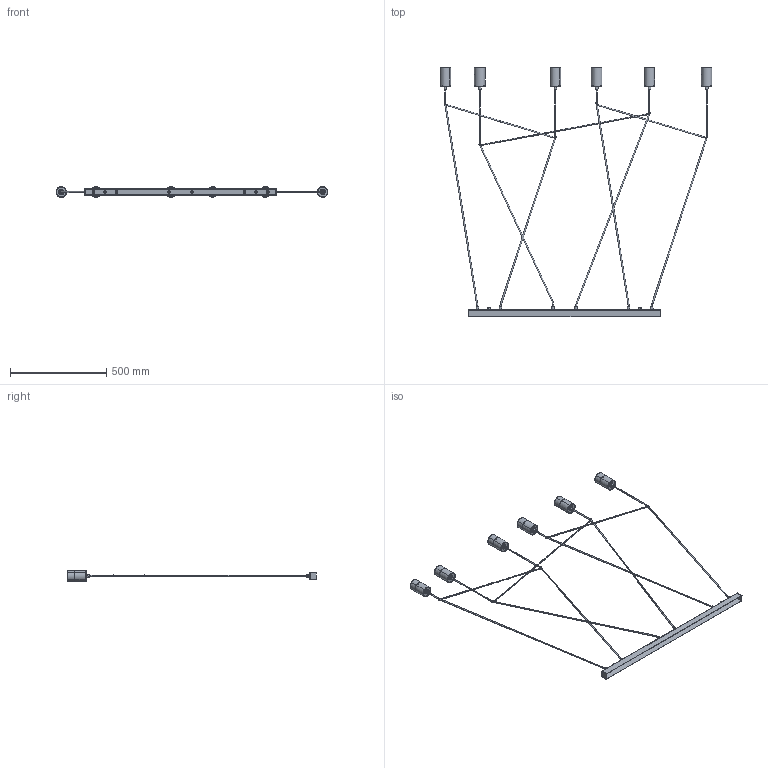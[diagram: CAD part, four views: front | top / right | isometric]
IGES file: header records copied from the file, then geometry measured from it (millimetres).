
Start section: SolidWorks IGES file using analytic representation for surfaces
Global section: file name: Z:\Modele 3D_WWW\_KOLEKCJE_WWW\IMBRIA-VI-9675-9674\IMBRIA-VI-9675-9674.IGS; native system: SolidWorks 2020; preprocessor: SolidWorks 2020; author: gabriela.tworek; date: 210315.083602; units: millimetre
Bounding box: 1414.23 x 1295.03 x 55 mm (x, y, z)
Surface area: 691601.9 mm2 (no closed solid volume)
Topology: 0 solids, 0 shells, 1284 faces, 22646 edges, 22556 vertices
Faces by surface type: revolution 660, bspline 624
